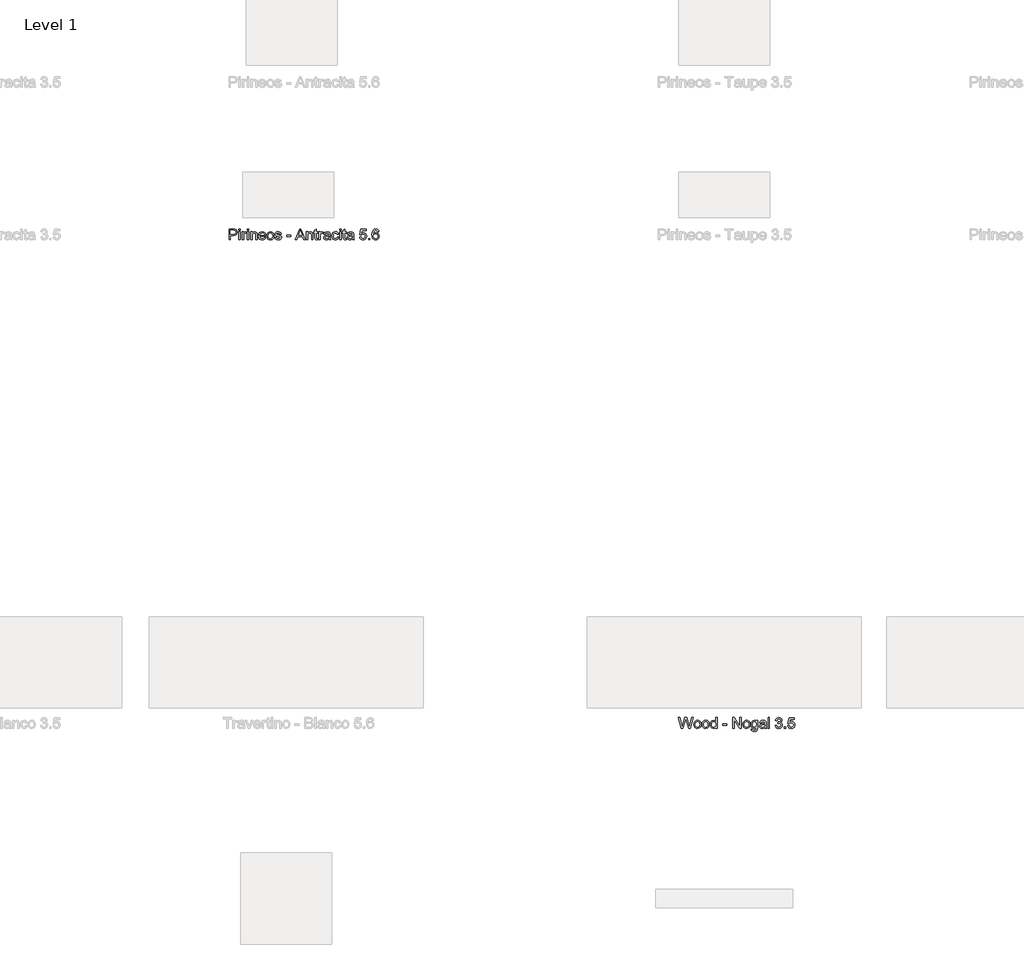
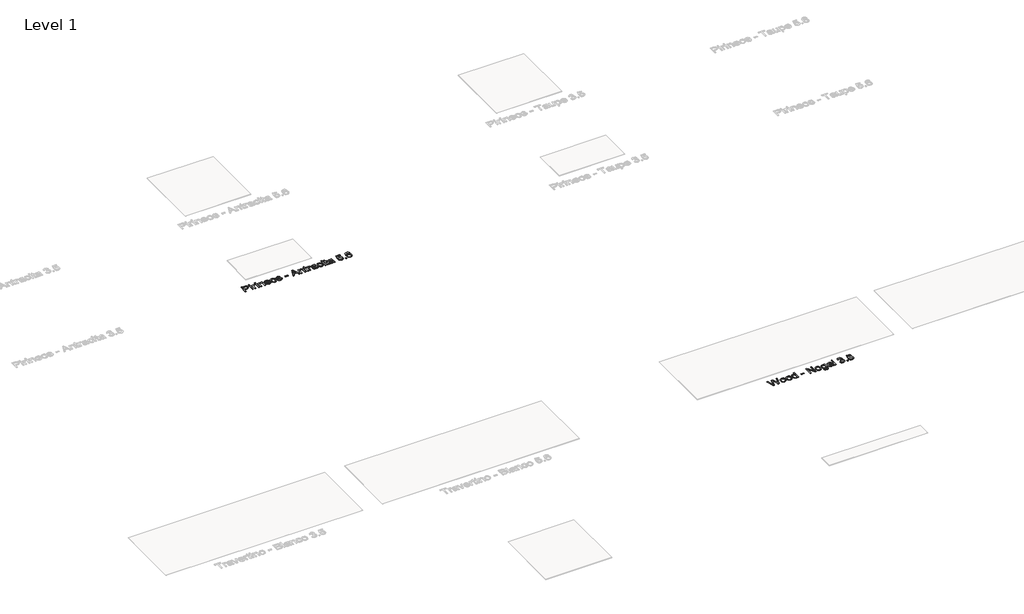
# One storey, part 23 of 80: 2 proxies.
"""IFC4 building model written with IfcOpenShell, lengths in millimetres."""

from ifc_helpers import new_model, si_unit, origin, origin_with_axes, place, context, project, spatial, polyline, outline, extrude, element, save

model = new_model("IFC4")

# Units and contexts
model_context = context("Model", 3, world=origin())
ifc_project = project(units=[si_unit("LENGTHUNIT", "METRE", prefix="MILLI")], contexts=[model_context])

# Site, building, storey
site = spatial("IfcSite", under=ifc_project)
building = spatial("IfcBuilding", under=site)
storey = spatial("IfcBuildingStorey", under=building, Name="Level 1", Elevation=0.0)

# Proxies
placement = place(None, origin())
element("IfcBuildingElementProxy", 1, Name="24\" Arial", ObjectType="24\" Arial", at=placement, inside=storey, context=model_context, shape_type="SweptSolid", body=[
    extrude(outline(polyline([(-15830.3068771, -2287.8052427), (-15830.3068771, -2169.6513966), (-15786.5184156, -2169.6513966), (-15768.8645694, -2170.7763966), (-15754.5136079, -2176.300435), (-15745.2107233, -2187.723512), (-15741.6914925, -2203.8340889), (-15744.0676944, -2217.7595697), (-15751.1963002, -2229.362935), (-15764.5268291, -2237.1946658), (-15785.5088002, -2239.8052427), (-15815.5376464, -2239.8052427), (-15815.5376464, -2287.8052427), (-15830.3068771, -2287.8052427)]), holes=[polyline([(-15815.5376464, -2225.036012), (-15784.6434156, -2225.036012), (-15771.5472617, -2223.6802427), (-15762.8934156, -2219.612935), (-15758.0688964, -2213.0864927), (-15756.4607233, -2204.3533197), (-15760.2539925, -2192.1225504), (-15770.2203387, -2185.4302427), (-15784.9895694, -2184.4206273), (-15815.5376464, -2184.4206273), (-15815.5376464, -2225.036012)])]), origin_with_axes(), (0.0, 0.0, 1.0), 2.0),
    extrude(outline(polyline([(-15723.2299541, -2287.8052427), (-15723.2299541, -2201.036012), (-15708.4607233, -2201.036012), (-15708.4607233, -2287.8052427), (-15723.2299541, -2287.8052427)])), origin_with_axes(), (0.0, 0.0, 1.0), 2.0),
    extrude(outline(polyline([(-15723.2299541, -2184.4206273), (-15723.2299541, -2169.6513966), (-15708.4607233, -2169.6513966), (-15708.4607233, -2184.4206273), (-15723.2299541, -2184.4206273)])), origin_with_axes(), (0.0, 0.0, 1.0), 2.0),
    extrude(outline(polyline([(-15686.3068771, -2287.8052427), (-15686.3068771, -2201.036012), (-15673.3838002, -2201.036012), (-15673.3838002, -2213.8725504), (-15664.2107233, -2202.0456273), (-15654.9799541, -2199.1898581), (-15640.153031, -2203.7475504), (-15645.0857233, -2216.987935), (-15655.4703387, -2213.9590889), (-15663.8213002, -2216.8725504), (-15669.1434156, -2224.9494735), (-15671.5376464, -2242.1994735), (-15671.5376464, -2287.8052427), (-15686.3068771, -2287.8052427)])), origin_with_axes(), (0.0, 0.0, 1.0), 2.0),
    extrude(outline(polyline([(-15630.9222617, -2287.8052427), (-15630.9222617, -2201.036012), (-15616.153031, -2201.036012), (-15616.153031, -2287.8052427), (-15630.9222617, -2287.8052427)])), origin_with_axes(), (0.0, 0.0, 1.0), 2.0),
    extrude(outline(polyline([(-15630.9222617, -2184.4206273), (-15630.9222617, -2169.6513966), (-15616.153031, -2169.6513966), (-15616.153031, -2184.4206273), (-15630.9222617, -2184.4206273)])), origin_with_axes(), (0.0, 0.0, 1.0), 2.0),
    extrude(outline(polyline([(-15593.9991848, -2287.8052427), (-15593.9991848, -2201.036012), (-15579.2299541, -2201.036012), (-15579.2299541, -2213.1513966), (-15567.9366848, -2202.6802427), (-15552.5184156, -2199.1898581), (-15538.5713002, -2202.0023581), (-15529.0520694, -2209.3869735), (-15524.6241848, -2220.2475504), (-15523.8453387, -2234.5263966), (-15523.8453387, -2287.8052427), (-15538.6145694, -2287.8052427), (-15538.6145694, -2236.5167812), (-15540.3164925, -2223.4494735), (-15546.3309156, -2216.5408197), (-15556.4703387, -2213.9590889), (-15572.4943771, -2219.7571658), (-15577.5460598, -2228.1586081), (-15579.2299541, -2241.7667812), (-15579.2299541, -2287.8052427), (-15593.9991848, -2287.8052427)])), origin_with_axes(), (0.0, 0.0, 1.0), 2.0),
    extrude(outline(polyline([(-15442.7876464, -2261.9590889), (-15428.3068771, -2263.8052427), (-15433.5244252, -2274.7163004), (-15441.8501464, -2282.8725504), (-15453.0965406, -2287.956685), (-15467.0761079, -2289.6513966), (-15484.4054348, -2286.7271177), (-15497.7395694, -2277.9542812), (-15506.2419733, -2263.9025985), (-15509.0761079, -2245.1417812), (-15506.2131271, -2225.7499543), (-15497.6241848, -2211.2475504), (-15484.4703387, -2202.2042812), (-15467.9126464, -2199.1898581), (-15451.8705791, -2202.1970697), (-15439.0520694, -2211.2187043), (-15430.6470214, -2225.692262), (-15427.8453387, -2245.0552427), (-15427.9318771, -2249.036012), (-15494.3068771, -2249.036012), (-15491.7503867, -2260.0913004), (-15485.8116848, -2268.2187043), (-15477.2407714, -2273.2163004), (-15466.7876464, -2274.8821658), (-15452.3068771, -2271.7956273), (-15442.7876464, -2261.9590889)]), holes=[polyline([(-15494.3068771, -2234.2667812), (-15442.6145694, -2234.2667812), (-15448.528031, -2220.8821658), (-15457.1386079, -2215.6898581), (-15467.9703387, -2213.9590889), (-15486.1578387, -2219.4831273), (-15491.8801944, -2225.94106), (-15494.3068771, -2234.2667812)])]), origin_with_axes(), (0.0, 0.0, 1.0), 2.0),
    extrude(outline(polyline([(-15416.7684156, -2244.4206273), (-15413.5737041, -2223.4999543), (-15403.9895694, -2208.7956273), (-15392.1482233, -2201.5913004), (-15377.9703387, -2199.1898581), (-15362.4547137, -2202.114137), (-15350.0616848, -2210.8869735), (-15341.9378867, -2224.81606), (-15339.2299541, -2243.2090889), (-15344.0184156, -2269.487935), (-15357.965531, -2284.3581273), (-15377.9703387, -2289.6513966), (-15393.6734637, -2286.737935), (-15406.0520694, -2277.9975504), (-15414.0893291, -2263.7763966), (-15416.7684156, -2244.4206273)]), holes=[polyline([(-15401.9991848, -2244.3917812), (-15400.2900502, -2257.7583677), (-15395.1626464, -2267.2812043), (-15387.4463002, -2272.9819254), (-15377.9703387, -2274.8821658), (-15368.5376464, -2272.9711081), (-15360.8357233, -2267.237935), (-15355.7083194, -2257.5888966), (-15353.9991848, -2243.9302427), (-15355.7191367, -2230.9530793), (-15360.8789925, -2221.5600504), (-15368.5917329, -2215.8593293), (-15377.9703387, -2213.9590889), (-15387.4463002, -2215.8521177), (-15395.1626464, -2221.5312043), (-15400.2900502, -2231.0324062), (-15401.9991848, -2244.3917812)])]), origin_with_axes(), (0.0, 0.0, 1.0), 2.0),
    extrude(outline(polyline([(-15328.153031, -2261.9590889), (-15313.3838002, -2260.112935), (-15306.5472617, -2271.0744735), (-15290.8838002, -2274.8821658), (-15275.8261079, -2271.3917812), (-15270.9222617, -2263.1994735), (-15275.8549541, -2256.5648581), (-15291.0568771, -2252.3533197), (-15313.2972617, -2245.1273581), (-15323.0039925, -2236.6898581), (-15326.3068771, -2224.7763966), (-15323.653031, -2213.7715889), (-15316.4126464, -2205.362935), (-15307.0232233, -2200.9927427), (-15294.3164925, -2199.1898581), (-15276.3453387, -2202.0888966), (-15264.9222617, -2209.9350504), (-15259.8453387, -2223.1898581), (-15274.6145694, -2225.036012), (-15280.1674541, -2216.8869735), (-15293.1626464, -2213.9590889), (-15307.2972617, -2216.7571658), (-15311.5376464, -2223.2763966), (-15309.778031, -2227.5744735), (-15304.2684156, -2230.8340889), (-15291.5472617, -2233.9783197), (-15269.8693771, -2240.9302427), (-15259.8020694, -2248.8052427), (-15256.153031, -2261.6417812), (-15260.4366848, -2275.7763966), (-15272.7972617, -2286.0312043), (-15291.0857233, -2289.6513966), (-15305.9775502, -2287.9062043), (-15316.8453387, -2282.6706273), (-15324.1001464, -2274.0023581), (-15328.153031, -2261.9590889)])), origin_with_axes(), (0.0, 0.0, 1.0), 2.0),
    extrude(outline(polyline([(-15200.7684156, -2252.7283197), (-15200.7684156, -2237.9590889), (-15154.6145694, -2237.9590889), (-15154.6145694, -2252.7283197), (-15200.7684156, -2252.7283197)])), origin_with_axes(), (0.0, 0.0, 1.0), 2.0),
    extrude(outline(polyline([(-15103.7588002, -2287.8052427), (-15056.5953387, -2169.6513966), (-15044.0184156, -2169.6513966), (-14996.8549541, -2287.8052427), (-15012.4607233, -2287.8052427), (-15025.9895694, -2250.8821658), (-15074.653031, -2250.8821658), (-15088.153031, -2287.8052427), (-15103.7588002, -2287.8052427)]), holes=[polyline([(-15069.2299541, -2236.112935), (-15031.3838002, -2236.112935), (-15042.028031, -2207.0648581), (-15050.3068771, -2184.4206273), (-15057.6626464, -2204.5263966), (-15069.2299541, -2236.112935)])]), origin_with_axes(), (0.0, 0.0, 1.0), 2.0),
    extrude(outline(polyline([(-14982.9222617, -2287.8052427), (-14982.9222617, -2201.036012), (-14968.153031, -2201.036012), (-14968.153031, -2213.1513966), (-14956.8597617, -2202.6802427), (-14941.4414925, -2199.1898581), (-14927.4943771, -2202.0023581), (-14917.9751464, -2209.3869735), (-14913.5472617, -2220.2475504), (-14912.7684156, -2234.5263966), (-14912.7684156, -2287.8052427), (-14927.5376464, -2287.8052427), (-14927.5376464, -2236.5167812), (-14929.2395694, -2223.4494735), (-14935.2539925, -2216.5408197), (-14945.3934156, -2213.9590889), (-14961.4174541, -2219.7571658), (-14966.4691367, -2228.1586081), (-14968.153031, -2241.7667812), (-14968.153031, -2287.8052427), (-14982.9222617, -2287.8052427)])), origin_with_axes(), (0.0, 0.0, 1.0), 2.0),
    extrude(outline(polyline([(-14861.0761079, -2275.487935), (-14859.2299541, -2288.237935), (-14870.278031, -2289.6513966), (-14882.653031, -2287.1994735), (-14888.8261079, -2280.7667812), (-14890.6145694, -2264.0071658), (-14890.6145694, -2215.8052427), (-14901.6914925, -2215.8052427), (-14901.6914925, -2201.036012), (-14890.6145694, -2201.036012), (-14890.6145694, -2179.9494735), (-14875.8453387, -2171.2667812), (-14875.8453387, -2201.036012), (-14861.0761079, -2201.036012), (-14861.0761079, -2215.8052427), (-14875.8453387, -2215.8052427), (-14875.8453387, -2263.5744735), (-14875.0664925, -2271.1898581), (-14872.5424541, -2273.8869735), (-14867.5088002, -2274.8821658), (-14861.0761079, -2275.487935)])), origin_with_axes(), (0.0, 0.0, 1.0), 2.0),
    extrude(outline(polyline([(-14846.3068771, -2287.8052427), (-14846.3068771, -2201.036012), (-14833.3838002, -2201.036012), (-14833.3838002, -2213.8725504), (-14824.2107233, -2202.0456273), (-14814.9799541, -2199.1898581), (-14800.153031, -2203.7475504), (-14805.0857233, -2216.987935), (-14815.4703387, -2213.9590889), (-14823.8213002, -2216.8725504), (-14829.1434156, -2224.9494735), (-14831.5376464, -2242.1994735), (-14831.5376464, -2287.8052427), (-14846.3068771, -2287.8052427)])), origin_with_axes(), (0.0, 0.0, 1.0), 2.0),
    extrude(outline(polyline([(-14735.5376464, -2276.7283197), (-14749.8597617, -2286.737935), (-14765.6818771, -2289.6513966), (-14778.0244252, -2287.8989927), (-14787.1289925, -2282.6417812), (-14792.7431752, -2274.6586081), (-14794.6145694, -2264.7283197), (-14791.7876464, -2253.0456273), (-14784.3597617, -2244.5648581), (-14774.0184156, -2239.7187043), (-14761.2395694, -2237.4975504), (-14735.6241848, -2232.4206273), (-14735.5376464, -2229.1321658), (-14739.6049541, -2218.2283197), (-14755.9318771, -2213.9590889), (-14770.8741848, -2216.800435), (-14777.9991848, -2226.8821658), (-14792.7684156, -2225.036012), (-14786.3789925, -2210.612935), (-14773.5136079, -2202.161012), (-14754.028031, -2199.1898581), (-14736.1289925, -2201.8148581), (-14726.0184156, -2208.4062043), (-14721.4895694, -2218.4302427), (-14720.7684156, -2231.3533197), (-14720.7684156, -2249.7283197), (-14720.0184156, -2275.3869735), (-14717.0761079, -2287.8052427), (-14731.8453387, -2287.8052427), (-14735.5376464, -2276.7283197)]), holes=[polyline([(-14735.5376464, -2247.1898581), (-14759.3645694, -2251.7187043), (-14772.0713002, -2254.112935), (-14777.8261079, -2258.0071658), (-14779.8453387, -2263.6898581), (-14775.4463002, -2271.6802427), (-14762.5376464, -2274.8821658), (-14747.5953387, -2271.348512), (-14737.9607233, -2262.7956273), (-14735.6241848, -2251.3725504), (-14735.5376464, -2247.1898581)])]), origin_with_axes(), (0.0, 0.0, 1.0), 2.0),
    extrude(outline(polyline([(-14645.0761079, -2256.4206273), (-14630.3068771, -2258.2667812), (-14634.4246656, -2271.4025985), (-14642.1626464, -2281.3292812), (-14652.7924541, -2287.5708677), (-14665.5857233, -2289.6513966), (-14681.2960598, -2286.7487523), (-14693.5809156, -2278.0408197), (-14701.5100021, -2263.90981), (-14704.153031, -2244.737935), (-14699.6386079, -2220.2042812), (-14693.9414925, -2211.0059639), (-14685.8789925, -2204.4398581), (-14665.7876464, -2199.1898581), (-14653.3080791, -2200.9927427), (-14643.3309156, -2206.4013966), (-14636.1734637, -2215.1273581), (-14632.153031, -2226.8821658), (-14646.9222617, -2228.7283197), (-14653.7732233, -2217.6658197), (-14665.6722617, -2213.9590889), (-14675.2167329, -2215.7836081), (-14682.7924541, -2221.2571658), (-14687.7359637, -2230.675435), (-14689.3838002, -2244.3340889), (-14687.7720214, -2258.176637), (-14682.9366848, -2267.6273581), (-14675.4979829, -2273.0684639), (-14666.0761079, -2274.8821658), (-14652.1578387, -2270.3533197), (-14645.0761079, -2256.4206273)])), origin_with_axes(), (0.0, 0.0, 1.0), 2.0),
    extrude(outline(polyline([(-14617.3838002, -2287.8052427), (-14617.3838002, -2201.036012), (-14602.6145694, -2201.036012), (-14602.6145694, -2287.8052427), (-14617.3838002, -2287.8052427)])), origin_with_axes(), (0.0, 0.0, 1.0), 2.0),
    extrude(outline(polyline([(-14617.3838002, -2184.4206273), (-14617.3838002, -2169.6513966), (-14602.6145694, -2169.6513966), (-14602.6145694, -2184.4206273), (-14617.3838002, -2184.4206273)])), origin_with_axes(), (0.0, 0.0, 1.0), 2.0),
    extrude(outline(polyline([(-14549.0761079, -2275.487935), (-14547.2299541, -2288.237935), (-14558.278031, -2289.6513966), (-14570.653031, -2287.1994735), (-14576.8261079, -2280.7667812), (-14578.6145694, -2264.0071658), (-14578.6145694, -2215.8052427), (-14589.6914925, -2215.8052427), (-14589.6914925, -2201.036012), (-14578.6145694, -2201.036012), (-14578.6145694, -2179.9494735), (-14563.8453387, -2171.2667812), (-14563.8453387, -2201.036012), (-14549.0761079, -2201.036012), (-14549.0761079, -2215.8052427), (-14563.8453387, -2215.8052427), (-14563.8453387, -2263.5744735), (-14563.0664925, -2271.1898581), (-14560.5424541, -2273.8869735), (-14555.5088002, -2274.8821658), (-14549.0761079, -2275.487935)])), origin_with_axes(), (0.0, 0.0, 1.0), 2.0),
    extrude(outline(polyline([(-14478.9222617, -2276.7283197), (-14493.2443771, -2286.737935), (-14509.0664925, -2289.6513966), (-14521.4090406, -2287.8989927), (-14530.5136079, -2282.6417812), (-14536.1277906, -2274.6586081), (-14537.9991848, -2264.7283197), (-14535.1722617, -2253.0456273), (-14527.7443771, -2244.5648581), (-14517.403031, -2239.7187043), (-14504.6241848, -2237.4975504), (-14479.0088002, -2232.4206273), (-14478.9222617, -2229.1321658), (-14482.9895694, -2218.2283197), (-14499.3164925, -2213.9590889), (-14514.2588002, -2216.800435), (-14521.3838002, -2226.8821658), (-14536.153031, -2225.036012), (-14529.7636079, -2210.612935), (-14516.8982233, -2202.161012), (-14497.4126464, -2199.1898581), (-14479.5136079, -2201.8148581), (-14469.403031, -2208.4062043), (-14464.8741848, -2218.4302427), (-14464.153031, -2231.3533197), (-14464.153031, -2249.7283197), (-14463.403031, -2275.3869735), (-14460.4607233, -2287.8052427), (-14475.2299541, -2287.8052427), (-14478.9222617, -2276.7283197)]), holes=[polyline([(-14478.9222617, -2247.1898581), (-14502.7491848, -2251.7187043), (-14515.4559156, -2254.112935), (-14521.2107233, -2258.0071658), (-14523.2299541, -2263.6898581), (-14518.8309156, -2271.6802427), (-14505.9222617, -2274.8821658), (-14490.9799541, -2271.348512), (-14481.3453387, -2262.7956273), (-14479.0088002, -2251.3725504), (-14478.9222617, -2247.1898581)])]), origin_with_axes(), (0.0, 0.0, 1.0), 2.0),
    extrude(outline(polyline([(-14401.3838002, -2256.4206273), (-14386.6145694, -2254.5744735), (-14379.1722617, -2269.7908197), (-14363.7395694, -2274.8821658), (-14353.153031, -2273.1117331), (-14345.2203387, -2267.800435), (-14340.2660117, -2259.5612523), (-14338.6145694, -2249.0071658), (-14340.1614444, -2239.0696658), (-14344.8020694, -2231.4687043), (-14352.5725021, -2226.644185), (-14363.5088002, -2225.036012), (-14376.4751464, -2227.6033197), (-14384.7684156, -2234.2667812), (-14399.5376464, -2232.4206273), (-14386.6145694, -2171.4975504), (-14329.3838002, -2171.4975504), (-14329.3838002, -2186.2667812), (-14374.6722617, -2186.2667812), (-14380.9895694, -2218.8052427), (-14370.4390887, -2212.4013966), (-14359.3838002, -2210.2667812), (-14345.5845214, -2212.9134158), (-14334.1289925, -2220.8533197), (-14326.4162521, -2232.9542812), (-14323.8453387, -2248.0840889), (-14326.1602425, -2262.8533197), (-14333.1049541, -2275.487935), (-14346.403031, -2286.1105312), (-14363.7972617, -2289.6513966), (-14378.3032714, -2287.3761562), (-14389.8597617, -2280.550435), (-14397.7816367, -2269.9675023), (-14401.3838002, -2256.4206273)])), origin_with_axes(), (0.0, 0.0, 1.0), 2.0),
    extrude(outline(polyline([(-14303.5376464, -2287.8052427), (-14303.5376464, -2273.036012), (-14288.7684156, -2273.036012), (-14288.7684156, -2287.8052427), (-14303.5376464, -2287.8052427)])), origin_with_axes(), (0.0, 0.0, 1.0), 2.0),
    extrude(outline(polyline([(-14189.0761079, -2201.036012), (-14203.8453387, -2202.8821658), (-14209.4414925, -2190.5648581), (-14216.1410117, -2185.956685), (-14224.2395694, -2184.4206273), (-14237.5664925, -2187.9975504), (-14247.6482233, -2201.425435), (-14251.8453387, -2227.7475504), (-14238.8213002, -2215.9638966), (-14222.6818771, -2212.112935), (-14209.0376464, -2214.7451466), (-14197.5857233, -2222.6417812), (-14189.8188964, -2234.706685), (-14187.2299541, -2249.8437043), (-14192.1049541, -2270.223512), (-14205.5184156, -2284.6465889), (-14224.8741848, -2289.6513966), (-14241.6301944, -2286.3340889), (-14254.9751464, -2276.3821658), (-14263.7047137, -2258.8148581), (-14266.6145694, -2232.6513966), (-14263.3838002, -2203.2355312), (-14253.6914925, -2183.1225504), (-14240.4583194, -2173.019185), (-14223.3164925, -2169.6513966), (-14210.3573579, -2171.7355312), (-14199.9799541, -2177.987935), (-14192.7107233, -2187.9182235), (-14189.0761079, -2201.036012)]), holes=[polyline([(-14251.8453387, -2249.612935), (-14248.4270694, -2262.4062043), (-14239.340531, -2271.6946658), (-14226.028031, -2274.8821658), (-14216.2816367, -2273.2307235), (-14208.6193771, -2268.2763966), (-14203.6542329, -2260.487935), (-14201.9991848, -2250.3340889), (-14203.6325983, -2240.5876947), (-14208.5328387, -2233.1562043), (-14216.324906, -2228.4506754), (-14226.6338002, -2226.8821658), (-14236.3657714, -2228.4506754), (-14244.5039925, -2233.1562043), (-14250.0100021, -2240.4074062), (-14251.8453387, -2249.612935)])]), origin_with_axes(), (0.0, 0.0, 1.0), 2.0),
])
element("IfcBuildingElementProxy", 2, Name="24\" Arial", ObjectType="24\" Arial", at=placement, inside=storey, context=model_context, shape_type="SweptSolid", body=[
    extrude(outline(polyline([(-10876.3934156, -7643.0201601), (-10908.6145694, -7524.8663139), (-10893.3838002, -7524.8663139), (-10874.6914925, -7602.5201601), (-10868.9222617, -7626.4913139), (-10862.7491848, -7605.2893908), (-10839.3261079, -7524.8663139), (-10817.3741848, -7524.8663139), (-10800.3549541, -7583.1643908), (-10787.6914925, -7626.4913139), (-10782.0953387, -7603.2124678), (-10763.2299541, -7524.8663139), (-10747.9991848, -7524.8663139), (-10780.2491848, -7643.0201601), (-10796.028031, -7643.0201601), (-10824.3549541, -7551.8663139), (-10828.3068771, -7539.1451601), (-10832.7491848, -7554.4624678), (-10858.5664925, -7643.0201601), (-10876.3934156, -7643.0201601)])), origin_with_axes(), (0.0, 0.0, 1.0), 2.0),
    extrude(outline(polyline([(-10738.7684156, -7599.6355447), (-10735.5737041, -7578.7148716), (-10725.9895694, -7564.0105447), (-10714.1482233, -7556.8062178), (-10699.9703387, -7554.4047755), (-10684.4547137, -7557.3290543), (-10672.0616848, -7566.1018908), (-10663.9378867, -7580.0309774), (-10661.2299541, -7598.4240062), (-10666.0184156, -7624.7028524), (-10679.965531, -7639.5730447), (-10699.9703387, -7644.8663139), (-10715.6734637, -7641.9528524), (-10728.0520694, -7633.2124678), (-10736.0893291, -7618.9913139), (-10738.7684156, -7599.6355447)]), holes=[polyline([(-10723.9991848, -7599.6066985), (-10722.2900502, -7612.9732851), (-10717.1626464, -7622.4961216), (-10709.4463002, -7628.1968428), (-10699.9703387, -7630.0970831), (-10690.5376464, -7628.1860255), (-10682.8357233, -7622.4528524), (-10677.7083194, -7612.8038139), (-10675.9991848, -7599.1451601), (-10677.7191367, -7586.1679966), (-10682.8789925, -7576.7749678), (-10690.5917329, -7571.0742466), (-10699.9703387, -7569.1740062), (-10709.4463002, -7571.0670351), (-10717.1626464, -7576.7461216), (-10722.2900502, -7586.2473235), (-10723.9991848, -7599.6066985)])]), origin_with_axes(), (0.0, 0.0, 1.0), 2.0),
    extrude(outline(polyline([(-10648.3068771, -7599.6355447), (-10645.1121656, -7578.7148716), (-10635.528031, -7564.0105447), (-10623.6866848, -7556.8062178), (-10609.5088002, -7554.4047755), (-10593.9931752, -7557.3290543), (-10581.6001464, -7566.1018908), (-10573.4763483, -7580.0309774), (-10570.7684156, -7598.4240062), (-10575.5568771, -7624.7028524), (-10589.5039925, -7639.5730447), (-10609.5088002, -7644.8663139), (-10625.2119252, -7641.9528524), (-10637.590531, -7633.2124678), (-10645.6277906, -7618.9913139), (-10648.3068771, -7599.6355447)]), holes=[polyline([(-10633.5376464, -7599.6066985), (-10631.8285117, -7612.9732851), (-10626.7011079, -7622.4961216), (-10618.9847617, -7628.1968428), (-10609.5088002, -7630.0970831), (-10600.0761079, -7628.1860255), (-10592.3741848, -7622.4528524), (-10587.246781, -7612.8038139), (-10585.5376464, -7599.1451601), (-10587.2575983, -7586.1679966), (-10592.4174541, -7576.7749678), (-10600.1301944, -7571.0742466), (-10609.5088002, -7569.1740062), (-10618.9847617, -7571.0670351), (-10626.7011079, -7576.7461216), (-10631.8285117, -7586.2473235), (-10633.5376464, -7599.6066985)])]), origin_with_axes(), (0.0, 0.0, 1.0), 2.0),
    extrude(outline(polyline([(-10500.6145694, -7643.0201601), (-10500.6145694, -7629.0874678), (-10510.3862041, -7640.9216024), (-10523.8934156, -7644.8663139), (-10542.1818771, -7639.1547755), (-10555.1049541, -7623.2172755), (-10559.6914925, -7599.7220831), (-10555.465531, -7576.2124678), (-10550.1866848, -7566.8879485), (-10542.8020694, -7560.0297755), (-10523.9511079, -7554.4047755), (-10510.3357233, -7558.4288139), (-10500.6145694, -7568.8855447), (-10500.6145694, -7524.8663139), (-10485.8453387, -7524.8663139), (-10485.8453387, -7643.0201601), (-10500.6145694, -7643.0201601)]), holes=[polyline([(-10544.9222617, -7599.6643908), (-10543.2563964, -7613.0237658), (-10538.2588002, -7622.5249678), (-10530.996781, -7628.2040543), (-10522.5376464, -7630.0970831), (-10514.0821175, -7628.2905928), (-10507.0039925, -7622.8711216), (-10502.2119252, -7613.7377081), (-10500.6145694, -7600.7893908), (-10502.2407714, -7586.6331408), (-10507.1193771, -7576.818237), (-10514.3777906, -7571.0850639), (-10523.1434156, -7569.1740062), (-10531.6890887, -7571.0093428), (-10538.6914925, -7576.5153524), (-10543.3645694, -7585.9732851), (-10544.9222617, -7599.6643908)])]), origin_with_axes(), (0.0, 0.0, 1.0), 2.0),
    extrude(outline(polyline([(-10424.9222617, -7607.943237), (-10424.9222617, -7593.1740062), (-10378.7684156, -7593.1740062), (-10378.7684156, -7607.943237), (-10424.9222617, -7607.943237)])), origin_with_axes(), (0.0, 0.0, 1.0), 2.0),
    extrude(outline(polyline([(-10314.153031, -7643.0201601), (-10314.153031, -7524.8663139), (-10298.3453387, -7524.8663139), (-10236.6145694, -7618.4720831), (-10236.6145694, -7524.8663139), (-10221.8453387, -7524.8663139), (-10221.8453387, -7643.0201601), (-10237.653031, -7643.0201601), (-10299.3838002, -7549.3855447), (-10299.3838002, -7643.0201601), (-10314.153031, -7643.0201601)])), origin_with_axes(), (0.0, 0.0, 1.0), 2.0),
    extrude(outline(polyline([(-10201.5376464, -7599.6355447), (-10198.3429348, -7578.7148716), (-10188.7588002, -7564.0105447), (-10176.9174541, -7556.8062178), (-10162.7395694, -7554.4047755), (-10147.2239444, -7557.3290543), (-10134.8309156, -7566.1018908), (-10126.7071175, -7580.0309774), (-10123.9991848, -7598.4240062), (-10128.7876464, -7624.7028524), (-10142.7347617, -7639.5730447), (-10162.7395694, -7644.8663139), (-10178.4426944, -7641.9528524), (-10190.8213002, -7633.2124678), (-10198.8585598, -7618.9913139), (-10201.5376464, -7599.6355447)]), holes=[polyline([(-10186.7684156, -7599.6066985), (-10185.059281, -7612.9732851), (-10179.9318771, -7622.4961216), (-10172.215531, -7628.1968428), (-10162.7395694, -7630.0970831), (-10153.3068771, -7628.1860255), (-10145.6049541, -7622.4528524), (-10140.4775502, -7612.8038139), (-10138.7684156, -7599.1451601), (-10140.4883675, -7586.1679966), (-10145.6482233, -7576.7749678), (-10153.3609637, -7571.0742466), (-10162.7395694, -7569.1740062), (-10172.215531, -7571.0670351), (-10179.9318771, -7576.7461216), (-10185.059281, -7586.2473235), (-10186.7684156, -7599.6066985)])]), origin_with_axes(), (0.0, 0.0, 1.0), 2.0),
    extrude(outline(polyline([(-10111.0761079, -7650.4047755), (-10096.3068771, -7652.2509293), (-10091.5184156, -7660.0393908), (-10077.1818771, -7663.3278524), (-10062.0664925, -7659.6066985), (-10054.8549541, -7649.1643908), (-10053.8453387, -7631.943237), (-10064.2443771, -7640.2509293), (-10076.9222617, -7643.0201601), (-10092.1494252, -7639.7966024), (-10103.5039925, -7630.1259293), (-10110.5676944, -7615.9480447), (-10112.9222617, -7599.2028524), (-10108.6963002, -7576.3134293), (-10096.465531, -7560.1163139), (-10077.6434156, -7554.4047755), (-10064.4679348, -7557.6355447), (-10053.8453387, -7567.3278524), (-10053.8453387, -7556.2509293), (-10039.0761079, -7556.2509293), (-10039.0761079, -7631.1643908), (-10043.1145694, -7659.8518908), (-10055.9078387, -7673.193237), (-10077.4703387, -7678.0970831), (-10091.2119252, -7676.3699197), (-10102.0328387, -7671.1884293), (-10108.9739444, -7662.5381889), (-10111.0761079, -7650.4047755)]), holes=[polyline([(-10098.153031, -7598.193237), (-10096.5773098, -7611.740112), (-10091.8501464, -7621.0538139), (-10084.7431752, -7626.4516505), (-10076.028031, -7628.2509293), (-10067.3777906, -7626.4624678), (-10060.2347617, -7621.0970831), (-10055.4426944, -7611.9023716), (-10053.8453387, -7598.6259293), (-10055.4895694, -7585.8218428), (-10060.4222617, -7576.6018908), (-10067.6698579, -7571.0309774), (-10076.2588002, -7569.1740062), (-10084.6926944, -7571.0021312), (-10091.7636079, -7576.4865062), (-10096.5556752, -7585.5694389), (-10098.153031, -7598.193237)])]), origin_with_axes(), (0.0, 0.0, 1.0), 2.0),
    extrude(outline(polyline([(-9961.5376464, -7631.943237), (-9975.8597617, -7641.9528524), (-9991.6818771, -7644.8663139), (-10004.0244252, -7643.1139101), (-10013.1289925, -7637.8566985), (-10018.7431752, -7629.8735255), (-10020.6145694, -7619.943237), (-10017.7876464, -7608.2605447), (-10010.3597617, -7599.7797755), (-10000.0184156, -7594.9336216), (-9987.2395694, -7592.7124678), (-9961.6241848, -7587.6355447), (-9961.5376464, -7584.3470831), (-9965.6049541, -7573.443237), (-9981.9318771, -7569.1740062), (-9996.8741848, -7572.0153524), (-10003.9991848, -7582.0970831), (-10018.7684156, -7580.2509293), (-10012.3789925, -7565.8278524), (-9999.5136079, -7557.3759293), (-9980.028031, -7554.4047755), (-9962.1289925, -7557.0297755), (-9952.0184156, -7563.6211216), (-9947.4895694, -7573.6451601), (-9946.7684156, -7586.568237), (-9946.7684156, -7604.943237), (-9946.0184156, -7630.6018908), (-9943.0761079, -7643.0201601), (-9957.8453387, -7643.0201601), (-9961.5376464, -7631.943237)]), holes=[polyline([(-9961.5376464, -7602.4047755), (-9985.3645694, -7606.9336216), (-9998.0713002, -7609.3278524), (-10003.8261079, -7613.2220831), (-10005.8453387, -7618.9047755), (-10001.4463002, -7626.8951601), (-9988.5376464, -7630.0970831), (-9973.5953387, -7626.5634293), (-9963.9607233, -7618.0105447), (-9961.6241848, -7606.5874678), (-9961.5376464, -7602.4047755)])]), origin_with_axes(), (0.0, 0.0, 1.0), 2.0),
    extrude(outline(polyline([(-9926.4607233, -7643.0201601), (-9926.4607233, -7524.8663139), (-9911.6914925, -7524.8663139), (-9911.6914925, -7643.0201601), (-9926.4607233, -7643.0201601)])), origin_with_axes(), (0.0, 0.0, 1.0), 2.0),
    extrude(outline(polyline([(-9847.0761079, -7611.6355447), (-9832.3068771, -7609.7893908), (-9824.1578387, -7625.3374678), (-9808.9126464, -7630.0970831), (-9798.7876464, -7628.4600639), (-9790.9703387, -7623.5490062), (-9785.9727425, -7616.2220831), (-9784.3068771, -7607.3374678), (-9785.9583194, -7598.9035735), (-9790.9126464, -7592.0634293), (-9798.4126464, -7587.5309774), (-9807.7011079, -7586.0201601), (-9818.0568771, -7587.6355447), (-9816.4126464, -7572.8663139), (-9814.0472617, -7573.0393908), (-9797.2876464, -7568.7990062), (-9791.7059156, -7563.4191985), (-9789.8453387, -7555.7605447), (-9795.2395694, -7544.2076601), (-9809.1434156, -7539.6355447), (-9823.2203387, -7544.2509293), (-9830.4607233, -7558.0970831), (-9845.2299541, -7556.2509293), (-9840.8813964, -7542.9889101), (-9833.1434156, -7533.0874678), (-9822.5568771, -7526.9216024), (-9809.6626464, -7524.8663139), (-9791.8501464, -7528.9191985), (-9779.3886079, -7539.9961216), (-9775.0761079, -7554.8951601), (-9779.1722617, -7568.5105447), (-9791.2876464, -7578.2893908), (-9782.0424541, -7582.0249678), (-9775.1914925, -7588.3855447), (-9770.9511079, -7597.0249678), (-9769.5376464, -7607.5970831), (-9772.3645694, -7621.9913139), (-9780.8453387, -7634.0201601), (-9793.6458194, -7642.1547755), (-9809.4318771, -7644.8663139), (-9823.7107233, -7642.5514101), (-9835.3357233, -7635.6066985), (-9843.4198579, -7624.9841024), (-9847.0761079, -7611.6355447)])), origin_with_axes(), (0.0, 0.0, 1.0), 2.0),
    extrude(outline(polyline([(-9749.2299541, -7643.0201601), (-9749.2299541, -7628.2509293), (-9734.4607233, -7628.2509293), (-9734.4607233, -7643.0201601), (-9749.2299541, -7643.0201601)])), origin_with_axes(), (0.0, 0.0, 1.0), 2.0),
    extrude(outline(polyline([(-9710.4607233, -7611.6355447), (-9695.6914925, -7609.7893908), (-9688.2491848, -7625.005737), (-9672.8164925, -7630.0970831), (-9662.2299541, -7628.3266505), (-9654.2972617, -7623.0153524), (-9649.3429348, -7614.7761697), (-9647.6914925, -7604.2220831), (-9649.2383675, -7594.2845831), (-9653.8789925, -7586.6836216), (-9661.6494252, -7581.8591024), (-9672.5857233, -7580.2509293), (-9685.5520694, -7582.818237), (-9693.8453387, -7589.4816985), (-9708.6145694, -7587.6355447), (-9695.6914925, -7526.7124678), (-9638.4607233, -7526.7124678), (-9638.4607233, -7541.4816985), (-9683.7491848, -7541.4816985), (-9690.0664925, -7574.0201601), (-9679.5160117, -7567.6163139), (-9668.4607233, -7565.4816985), (-9654.6614444, -7568.1283331), (-9643.2059156, -7576.068237), (-9635.4931752, -7588.1691985), (-9632.9222617, -7603.2990062), (-9635.2371656, -7618.068237), (-9642.1818771, -7630.7028524), (-9655.4799541, -7641.3254485), (-9672.8741848, -7644.8663139), (-9687.3801944, -7642.5910735), (-9698.9366848, -7635.7653524), (-9706.8585598, -7625.1824197), (-9710.4607233, -7611.6355447)])), origin_with_axes(), (0.0, 0.0, 1.0), 2.0),
])

save(model, "model.ifc")
